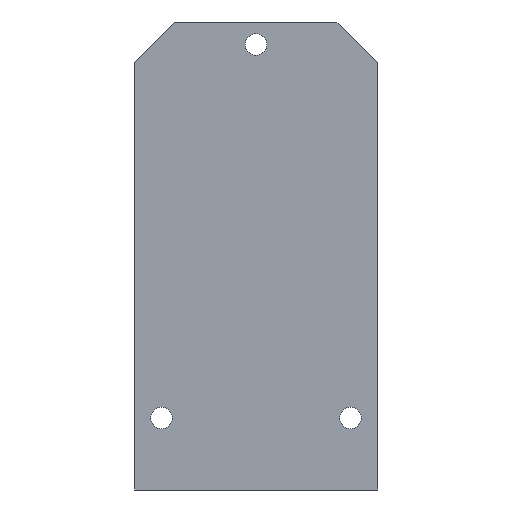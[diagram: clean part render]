
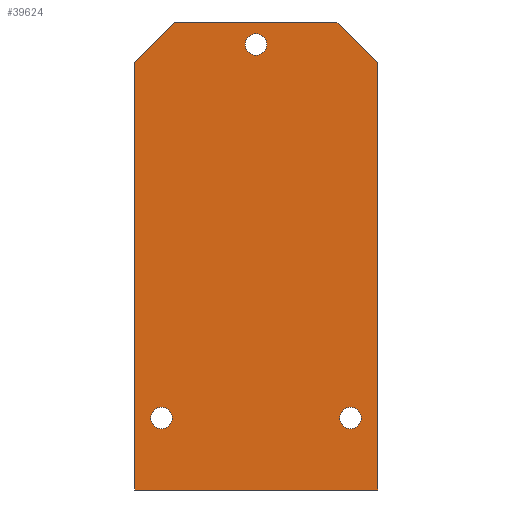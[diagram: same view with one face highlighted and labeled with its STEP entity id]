
A CAD part, front view. The second image highlights one B-rep face of the part: STEP entity #39624.
In plain terms, the highlighted planar face has unit normal (0, -1, 0).
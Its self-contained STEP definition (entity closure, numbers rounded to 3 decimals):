
#652 = VERTEX_POINT ( 'NONE', #37887 ) ;
#795 = CARTESIAN_POINT ( 'NONE',  ( 10.5, 0., -42.8 ) ) ;
#1152 = CIRCLE ( 'NONE', #32795, 1.2 ) ;
#1155 = DIRECTION ( 'NONE',  ( 0., 1., 0. ) ) ;
#1789 = DIRECTION ( 'NONE',  ( 0., 0., -1. ) ) ;
#2107 = CARTESIAN_POINT ( 'NONE',  ( 13.5, 0., 0. ) ) ;
#2535 = ORIENTED_EDGE ( 'NONE', *, *, #22520, .T. ) ;
#4323 = CARTESIAN_POINT ( 'NONE',  ( 10.5, 0., -44. ) ) ;
#4916 = EDGE_CURVE ( 'NONE', #41427, #40432, #14398, .T. ) ;
#5131 = AXIS2_PLACEMENT_3D ( 'NONE', #2107, #6184, #34564 ) ;
#5699 = ORIENTED_EDGE ( 'NONE', *, *, #37515, .F. ) ;
#6184 = DIRECTION ( 'NONE',  ( 0., 1., 0. ) ) ;
#7640 = FACE_BOUND ( 'NONE', #10351, .T. ) ;
#7808 = CARTESIAN_POINT ( 'NONE',  ( 10.5, 0., -44. ) ) ;
#8412 = DIRECTION ( 'NONE',  ( 0., 0., -1. ) ) ;
#8587 = EDGE_CURVE ( 'NONE', #19371, #19868, #32408, .T. ) ;
#8730 = DIRECTION ( 'NONE',  ( 0., 1., 0. ) ) ;
#9920 = CARTESIAN_POINT ( 'NONE',  ( -13.5, 0., -4.5 ) ) ;
#10296 = CARTESIAN_POINT ( 'NONE',  ( -13.5, 0., -52. ) ) ;
#10351 = EDGE_LOOP ( 'NONE', ( #35304, #44696 ) ) ;
#11269 = AXIS2_PLACEMENT_3D ( 'NONE', #33023, #8730, #37147 ) ;
#11302 = CARTESIAN_POINT ( 'NONE',  ( -10.5, 0., -45.2 ) ) ;
#11891 = DIRECTION ( 'NONE',  ( 0., 0., -1. ) ) ;
#12144 = CARTESIAN_POINT ( 'NONE',  ( -13.5, 0., 0. ) ) ;
#13175 = ORIENTED_EDGE ( 'NONE', *, *, #14677, .T. ) ;
#13215 = ORIENTED_EDGE ( 'NONE', *, *, #8587, .F. ) ;
#13637 = EDGE_CURVE ( 'NONE', #14634, #652, #1152, .T. ) ;
#14398 = CIRCLE ( 'NONE', #32163, 1.2 ) ;
#14634 = VERTEX_POINT ( 'NONE', #28257 ) ;
#14677 = EDGE_CURVE ( 'NONE', #49130, #28472, #51274, .T. ) ;
#15547 = CARTESIAN_POINT ( 'NONE',  ( -10.5, 0., -44. ) ) ;
#16316 = CARTESIAN_POINT ( 'NONE',  ( -13.5, 0., -52. ) ) ;
#16349 = CARTESIAN_POINT ( 'NONE',  ( -9., 0., 0. ) ) ;
#16390 = EDGE_LOOP ( 'NONE', ( #13175, #36765 ) ) ;
#16612 = LINE ( 'NONE', #39233, #46481 ) ;
#16997 = EDGE_CURVE ( 'NONE', #48300, #29598, #24480, .T. ) ;
#17009 = VECTOR ( 'NONE', #48571, 1000. ) ;
#17133 = FACE_BOUND ( 'NONE', #16390, .T. ) ;
#18296 = LINE ( 'NONE', #19993, #17009 ) ;
#19371 = VERTEX_POINT ( 'NONE', #43352 ) ;
#19626 = DIRECTION ( 'NONE',  ( 0., 0., -1. ) ) ;
#19868 = VERTEX_POINT ( 'NONE', #10296 ) ;
#19993 = CARTESIAN_POINT ( 'NONE',  ( 13.5, 0., -4.5 ) ) ;
#20721 = CARTESIAN_POINT ( 'NONE',  ( 10.5, 0., -45.2 ) ) ;
#21659 = VECTOR ( 'NONE', #36581, 1000. ) ;
#22104 = ORIENTED_EDGE ( 'NONE', *, *, #40291, .F. ) ;
#22520 = EDGE_CURVE ( 'NONE', #40432, #41427, #25558, .T. ) ;
#22525 = VECTOR ( 'NONE', #50960, 1000. ) ;
#24321 = VERTEX_POINT ( 'NONE', #42683 ) ;
#24480 = LINE ( 'NONE', #16349, #44804 ) ;
#24527 = DIRECTION ( 'NONE',  ( -0.707, 0., -0.707 ) ) ;
#25408 = CARTESIAN_POINT ( 'NONE',  ( -10.5, 0., -44. ) ) ;
#25558 = CIRCLE ( 'NONE', #48395, 1.2 ) ;
#25994 = ORIENTED_EDGE ( 'NONE', *, *, #45759, .F. ) ;
#26067 = DIRECTION ( 'NONE',  ( 0., 1., 0. ) ) ;
#26379 = PLANE ( 'NONE',  #5131 ) ;
#27788 = ORIENTED_EDGE ( 'NONE', *, *, #4916, .T. ) ;
#28257 = CARTESIAN_POINT ( 'NONE',  ( 0., 0., -1.3 ) ) ;
#28472 = VERTEX_POINT ( 'NONE', #795 ) ;
#29492 = DIRECTION ( 'NONE',  ( 0., 0., -1. ) ) ;
#29598 = VERTEX_POINT ( 'NONE', #9920 ) ;
#32068 = CIRCLE ( 'NONE', #11269, 1.2 ) ;
#32163 = AXIS2_PLACEMENT_3D ( 'NONE', #15547, #43952, #19626 ) ;
#32408 = LINE ( 'NONE', #16316, #21659 ) ;
#32690 = DIRECTION ( 'NONE',  ( 0., 1., 0. ) ) ;
#32795 = AXIS2_PLACEMENT_3D ( 'NONE', #50450, #26067, #1789 ) ;
#33023 = CARTESIAN_POINT ( 'NONE',  ( 0., 0., -2.5 ) ) ;
#33286 = LINE ( 'NONE', #34431, #22525 ) ;
#34431 = CARTESIAN_POINT ( 'NONE',  ( 13.5, 0., 0. ) ) ;
#34564 = DIRECTION ( 'NONE',  ( 0., 0., -1. ) ) ;
#34642 = LINE ( 'NONE', #12144, #44169 ) ;
#35304 = ORIENTED_EDGE ( 'NONE', *, *, #40367, .T. ) ;
#35789 = CARTESIAN_POINT ( 'NONE',  ( 9., 0., 0. ) ) ;
#36208 = DIRECTION ( 'NONE',  ( 0., 1., 0. ) ) ;
#36425 = VERTEX_POINT ( 'NONE', #35789 ) ;
#36439 = DIRECTION ( 'NONE',  ( 0., 0., 1. ) ) ;
#36581 = DIRECTION ( 'NONE',  ( -1., 0., 0. ) ) ;
#36765 = ORIENTED_EDGE ( 'NONE', *, *, #40885, .T. ) ;
#37147 = DIRECTION ( 'NONE',  ( 0., 0., -1. ) ) ;
#37239 = CARTESIAN_POINT ( 'NONE',  ( -9., 0., 0. ) ) ;
#37473 = AXIS2_PLACEMENT_3D ( 'NONE', #7808, #36208, #11891 ) ;
#37502 = CARTESIAN_POINT ( 'NONE',  ( -10.5, 0., -42.8 ) ) ;
#37515 = EDGE_CURVE ( 'NONE', #24321, #19371, #33286, .T. ) ;
#37887 = CARTESIAN_POINT ( 'NONE',  ( 0., 0., -3.7 ) ) ;
#37987 = AXIS2_PLACEMENT_3D ( 'NONE', #4323, #32690, #8412 ) ;
#38258 = ORIENTED_EDGE ( 'NONE', *, *, #16997, .T. ) ;
#38755 = FACE_OUTER_BOUND ( 'NONE', #43162, .T. ) ;
#39233 = CARTESIAN_POINT ( 'NONE',  ( -13.5, 0., 0. ) ) ;
#39624 = ADVANCED_FACE ( 'NONE', ( #7640, #48261, #17133, #38755 ), #26379, .F. ) ;
#40291 = EDGE_CURVE ( 'NONE', #19868, #29598, #34642, .T. ) ;
#40367 = EDGE_CURVE ( 'NONE', #652, #14634, #32068, .T. ) ;
#40432 = VERTEX_POINT ( 'NONE', #37502 ) ;
#40885 = EDGE_CURVE ( 'NONE', #28472, #49130, #48554, .T. ) ;
#41427 = VERTEX_POINT ( 'NONE', #11302 ) ;
#42683 = CARTESIAN_POINT ( 'NONE',  ( 13.5, 0., -4.5 ) ) ;
#43162 = EDGE_LOOP ( 'NONE', ( #25994, #38258, #22104, #13215, #5699, #50767 ) ) ;
#43327 = DIRECTION ( 'NONE',  ( 1., 0., 0. ) ) ;
#43352 = CARTESIAN_POINT ( 'NONE',  ( 13.5, 0., -52. ) ) ;
#43952 = DIRECTION ( 'NONE',  ( 0., 1., 0. ) ) ;
#44169 = VECTOR ( 'NONE', #36439, 1000. ) ;
#44696 = ORIENTED_EDGE ( 'NONE', *, *, #13637, .T. ) ;
#44714 = EDGE_CURVE ( 'NONE', #24321, #36425, #18296, .T. ) ;
#44804 = VECTOR ( 'NONE', #24527, 1000. ) ;
#45759 = EDGE_CURVE ( 'NONE', #48300, #36425, #16612, .T. ) ;
#46481 = VECTOR ( 'NONE', #43327, 1000. ) ;
#48261 = FACE_BOUND ( 'NONE', #48519, .T. ) ;
#48300 = VERTEX_POINT ( 'NONE', #37239 ) ;
#48395 = AXIS2_PLACEMENT_3D ( 'NONE', #25408, #1155, #29492 ) ;
#48519 = EDGE_LOOP ( 'NONE', ( #27788, #2535 ) ) ;
#48554 = CIRCLE ( 'NONE', #37473, 1.2 ) ;
#48571 = DIRECTION ( 'NONE',  ( -0.707, 0., 0.707 ) ) ;
#49130 = VERTEX_POINT ( 'NONE', #20721 ) ;
#50450 = CARTESIAN_POINT ( 'NONE',  ( 0., 0., -2.5 ) ) ;
#50767 = ORIENTED_EDGE ( 'NONE', *, *, #44714, .T. ) ;
#50960 = DIRECTION ( 'NONE',  ( 0., 0., -1. ) ) ;
#51274 = CIRCLE ( 'NONE', #37987, 1.2 ) ;
